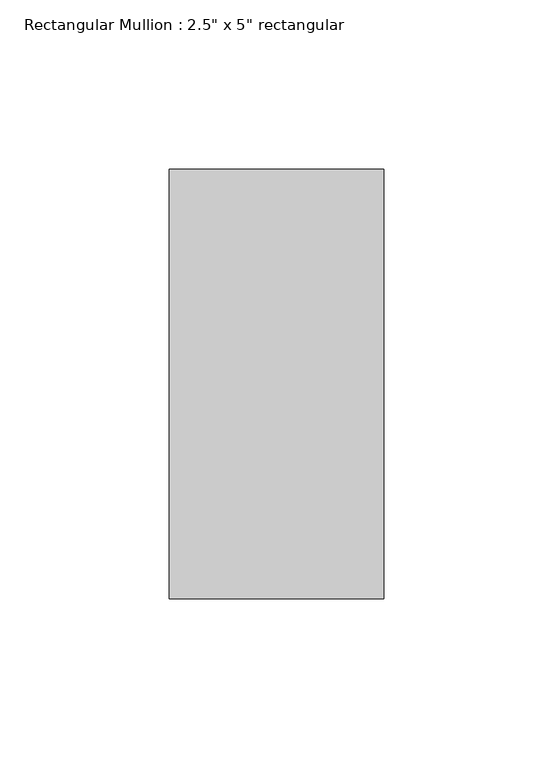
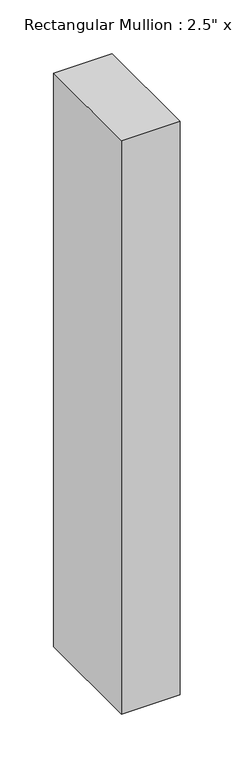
"""IFC4 building model written with IfcOpenShell, lengths in millimetres: member geometry."""

import ifcopenshell
import ifcopenshell.guid

model = None  # the IFC model being written
_history = None  # IfcOwnerHistory: only IFC2X3 demands one
_inside = {}  # id of a spatial element -> (the spatial element, [elements in it])
_under = {}  # id of a project, library or spatial element -> (it, [spatial elements below it])
_declared = {}  # id of a project -> (the project, [libraries it declares])
_typed = {}  # id of a type object -> (the type object, [elements of that type])
_made_of = {}  # id of a material, layer set ... -> (it, [elements and type objects made of it])


def new_model(schema):
    """Start an empty IFC model of exactly this schema.

    Asked for "IFC4X3", IfcOpenShell would pick the latest addendum, in which some entities
    have other attributes; the version numbers below select the first issue.
    IFC2X3 requires an IfcOwnerHistory on every rooted entity: one is made here for all.
    """
    global model, _history
    if schema == "IFC4X3":
        model = ifcopenshell.file(schema_version=(4, 3, 0, 0))
    else:
        model = ifcopenshell.file(schema=schema)
    _inside.clear()
    _under.clear()
    _declared.clear()
    _typed.clear()
    _made_of.clear()
    _history = None
    if model.schema == "IFC2X3":
        org = make("IfcOrganization", Name="unknown")
        user = make(
            "IfcPersonAndOrganization",
            ThePerson=make("IfcPerson", FamilyName="unknown"),
            TheOrganization=org,
        )
        app = make(
            "IfcApplication",
            ApplicationDeveloper=org,
            Version="unknown",
            ApplicationFullName="unknown",
            ApplicationIdentifier="unknown",
        )
        _history = make(
            "IfcOwnerHistory",
            OwningUser=user,
            OwningApplication=app,
            ChangeAction="ADDED",
            CreationDate=0,
        )
    return model


def make(cls, **values):
    """One entity of the class cls with the attributes given. An attribute that is None is left unset."""
    return model.create_entity(
        cls, **{name: value for name, value in values.items() if value is not None}
    )


def rooted(cls, **values):
    """An entity with a GlobalId (a new one), such as an element, a storey or a relation."""
    return make(cls, GlobalId=ifcopenshell.guid.new(), OwnerHistory=_history, **values)


def si_unit(unit_type, name, prefix=None):
    """IfcSIUnit, for example si_unit("LENGTHUNIT", "METRE", prefix="MILLI")."""
    return make("IfcSIUnit", UnitType=unit_type, Prefix=prefix, Name=name)


def assignment(units):
    """IfcUnitAssignment: the units of a project."""
    return None if units is None else make("IfcUnitAssignment", Units=units)


def point(xyz):
    """IfcCartesianPoint."""
    return None if xyz is None else make("IfcCartesianPoint", Coordinates=xyz)


def direction(xyz):
    """IfcDirection."""
    return None if xyz is None else make("IfcDirection", DirectionRatios=xyz)


def frame(location, z_axis=None, x_axis=None):
    """IfcAxis2Placement3D, a coordinate frame: its origin and axes. An axis left out is left unset."""
    return make(
        "IfcAxis2Placement3D",
        Location=point(location),
        Axis=direction(z_axis),
        RefDirection=direction(x_axis),
    )


def origin():
    """The frame at (0, 0, 0) with its axes left unset."""
    return frame((0.0, 0.0, 0.0))


def place(relative_to, where):
    """IfcLocalPlacement: puts the frame where relative to a parent placement (None: the world)."""
    return make(
        "IfcLocalPlacement", PlacementRelTo=relative_to, RelativePlacement=where
    )


def context(
    kind, dimensions, precision=None, world=None, true_north=None, identifier=None
):
    """IfcGeometricRepresentationContext, for example the 3D "Model" context."""
    return make(
        "IfcGeometricRepresentationContext",
        ContextIdentifier=identifier,
        ContextType=kind,
        CoordinateSpaceDimension=dimensions,
        Precision=precision,
        WorldCoordinateSystem=world,
        TrueNorth=true_north,
    )


def project(units=None, contexts=None):
    """IfcProject with its units and contexts."""
    return rooted(
        "IfcProject",
        Name="project",
        RepresentationContexts=contexts,
        UnitsInContext=assignment(units),
    )


def spatial(cls, under=None, at=None, **own):
    """A site, building, storey or space (cls), placed at a placement, below another one or the project."""
    s = rooted(cls, ObjectPlacement=at, **own)
    if under is not None:
        _under.setdefault(under.id(), (under, []))[1].append(s)
    return s


def polyline(points):
    """IfcPolyline through the points."""
    return make("IfcPolyline", Points=[point(p) for p in points])


def outline(outer, holes=None, kind="AREA"):
    """IfcArbitraryClosedProfileDef: a profile drawn as a closed curve; with holes, ...WithVoids."""
    if holes is None:
        return make("IfcArbitraryClosedProfileDef", ProfileType=kind, OuterCurve=outer)
    return make(
        "IfcArbitraryProfileDefWithVoids",
        ProfileType=kind,
        OuterCurve=outer,
        InnerCurves=holes,
    )


def extrude(swept, where, along, depth):
    """IfcExtrudedAreaSolid: the profile swept, set in the frame where, extruded along a direction by depth."""
    return make(
        "IfcExtrudedAreaSolid",
        SweptArea=swept,
        Position=where,
        ExtrudedDirection=direction(along),
        Depth=depth,
    )


def shape(context_of_items, identifier, shape_type, items):
    """IfcShapeRepresentation: the items that make up one representation, for example the "Body"."""
    return make(
        "IfcShapeRepresentation",
        ContextOfItems=context_of_items,
        RepresentationIdentifier=identifier,
        RepresentationType=shape_type,
        Items=items,
    )


def source(mapping_origin, context_of_items, identifier, shape_type, items):
    """IfcRepresentationMap: a shape defined once, which mapped items show again and again."""
    return make(
        "IfcRepresentationMap",
        MappingOrigin=mapping_origin,
        MappedRepresentation=shape(context_of_items, identifier, shape_type, items),
    )


def transform(
    local_origin,
    x_axis=None,
    y_axis=None,
    z_axis=None,
    scale=None,
    scale2=None,
    scale3=None,
    uniform=True,
):
    """IfcCartesianTransformationOperator3D, or its non-uniform kind. x_axis, y_axis, z_axis: its Axis1, 2, 3."""
    if uniform:
        return make(
            "IfcCartesianTransformationOperator3D",
            Axis1=direction(x_axis),
            Axis2=direction(y_axis),
            LocalOrigin=point(local_origin),
            Scale=scale,
            Axis3=direction(z_axis),
        )
    return make(
        "IfcCartesianTransformationOperator3DnonUniform",
        Axis1=direction(x_axis),
        Axis2=direction(y_axis),
        LocalOrigin=point(local_origin),
        Scale=scale,
        Axis3=direction(z_axis),
        Scale2=scale2,
        Scale3=scale3,
    )


def mapped(mapping_source, mapping_target):
    """IfcMappedItem: shows the shape of a source again, moved by a transform."""
    return make(
        "IfcMappedItem", MappingSource=mapping_source, MappingTarget=mapping_target
    )


def made_of(thing, what):
    """Note that an element or type object is made of a material, layer set ...; save() writes the relation."""
    if what is not None:
        _made_of.setdefault(what.id(), (what, []))[1].append(thing)
    return thing


def element(
    cls,
    number,
    at=None,
    inside=None,
    cuts=None,
    type_object=None,
    material=None,
    context=None,
    identifier="Body",
    shape_type=None,
    held_by="IfcProductDefinitionShape",
    body=None,
    shapes=None,
    **own,
):
    """One element of the class cls, such as IfcWall. Its Tag is "e" and its number.

    at: its placement. inside: the storey or other place that contains it. cuts: it is an
    opening in that element (IfcRelVoidsElement). A single representation is given by context,
    identifier, shape_type and body (its items); several are given by shapes. held_by: the class
    of the entity that holds the representations. save() writes the other relations.
    """
    e = rooted(cls, Tag="e%d" % number, ObjectPlacement=at, **own)
    if body is not None:
        shapes = [shape(context, identifier, shape_type, body)]
    if shapes is not None:
        e.Representation = make(held_by, Representations=shapes)
    if inside is not None:
        _inside.setdefault(inside.id(), (inside, []))[1].append(e)
    if cuts is not None:
        rooted(
            "IfcRelVoidsElement", RelatingBuildingElement=cuts, RelatedOpeningElement=e
        )
    if type_object is not None:
        _typed.setdefault(type_object.id(), (type_object, []))[1].append(e)
    return made_of(e, material)


def aggregate(whole, parts):
    """IfcRelAggregates: a whole, such as a stair, and the parts it consists of."""
    return rooted("IfcRelAggregates", RelatingObject=whole, RelatedObjects=parts)


def save(model, path):
    """Write the relations noted so far, then the file.

    IfcRelAggregates (storeys below a building ...), IfcRelContainedInSpatialStructure (elements
    in a storey), IfcRelDefinesByType, IfcRelAssociatesMaterial and IfcRelDeclares: one each for
    every whole, place, type object, material and project.
    """
    for whole, parts in _under.values():
        aggregate(whole, parts)
    for where, things in _inside.values():
        rooted(
            "IfcRelContainedInSpatialStructure",
            RelatedElements=things,
            RelatingStructure=where,
        )
    for kind, things in _typed.values():
        rooted("IfcRelDefinesByType", RelatedObjects=things, RelatingType=kind)
    for what, things in _made_of.values():
        rooted("IfcRelAssociatesMaterial", RelatedObjects=things, RelatingMaterial=what)
    for by, libraries in _declared.values():
        rooted("IfcRelDeclares", RelatingContext=by, RelatedDefinitions=libraries)
    model.write(path)


def member_bbb69f4f(model_context):
    return source(origin(), model_context, "Body", "SweptSolid", [
        extrude(outline(polyline([(0.0, 50.8), (0.0, -76.2), (-63.5, -76.2), (-63.5, 50.8), (0.0, 50.8)])), frame((0.0, 0.0, -654.05), z_axis=(0.0, 0.0, 1.0), x_axis=(1.0, 0.0, 0.0)), (0.0, 0.0, 1.0), 654.05),
    ])


if __name__ == "__main__":
    model = new_model("IFC4")
    model_context = context("Model", 3, world=origin())
    ifc_project = project(units=[si_unit("LENGTHUNIT", "METRE", prefix="MILLI")], contexts=[model_context])
    site = spatial("IfcSite", under=ifc_project)
    building = spatial("IfcBuilding", under=site)
    placement = place(None, origin())
    member_shape = member_bbb69f4f(model_context)
    element("IfcMember", 1, ObjectType="Rectangular Mullion : 2.5\" x 5\" rectangular", at=placement, inside=building, context=model_context, shape_type="MappedRepresentation", body=[
        mapped(member_shape, transform((0.0, 0.0, 0.0), x_axis=(1.0, 0.0, 0.0), y_axis=(0.0, 1.0, 0.0), z_axis=(0.0, 0.0, 1.0))),
    ])
    save(model, "model.ifc")
